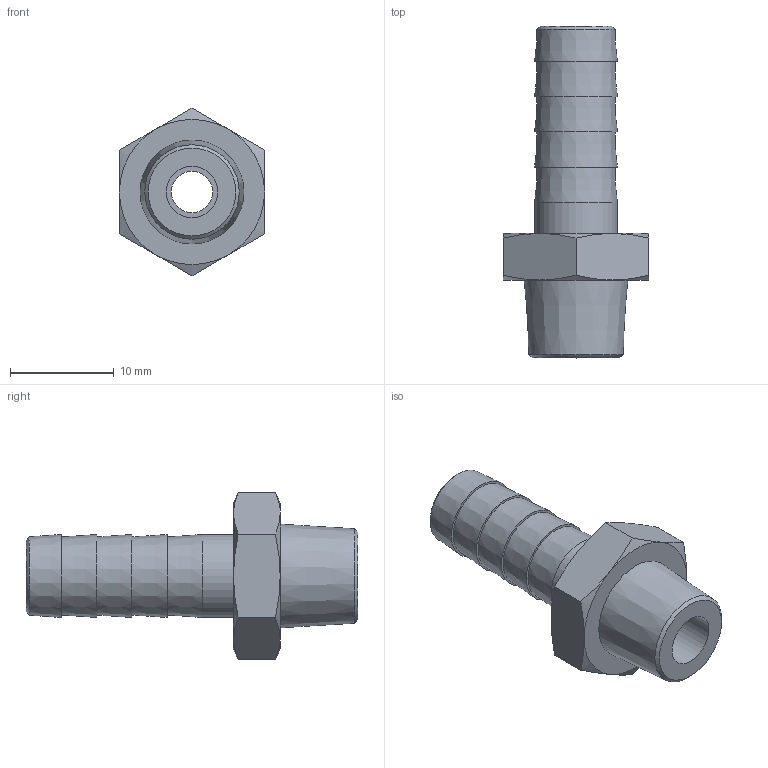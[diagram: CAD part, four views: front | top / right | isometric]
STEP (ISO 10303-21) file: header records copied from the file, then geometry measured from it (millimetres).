
FILE_DESCRIPTION(/* description */ (''),/* implementation_level */ '2;1');
FILE_NAME(/* name */ 'BXH09 10B1 00.stp',/* time_stamp */ '2026-06-22T11:35:56+02:00',/* author */ ('freju'),/* organization */ (''),/* preprocessor_version */ 'ST-DEVELOPER v20.1',/* originating_system */ 'Autodesk Inventor 2026',/* authorisation */ '');
FILE_SCHEMA (('AUTOMOTIVE_DESIGN { 1 0 10303 214 3 1 1 }'));
Length unit declared in the file: millimetre
Products named in the file (1): BXH09 06B1 00
Bounding box: 14 x 32 x 16.17 mm (x, y, z)
Volume: 1776.2 mm3; surface area: 1664.7 mm2
Topology: 1 solids, 1 shells, 38 faces, 75 edges, 46 vertices
Faces by surface type: cone 20, plane 15, cylinder 3
Full cylindrical faces by diameter (mm): 4 x1, 5 x1, 8 x1
Entity records: 1000 total; most frequent: CARTESIAN_POINT 208, DIRECTION 163, ORIENTED_EDGE 150, EDGE_CURVE 75, AXIS2_PLACEMENT_3D 73, EDGE_LOOP 47, VERTEX_POINT 46, FACE_OUTER_BOUND 38
